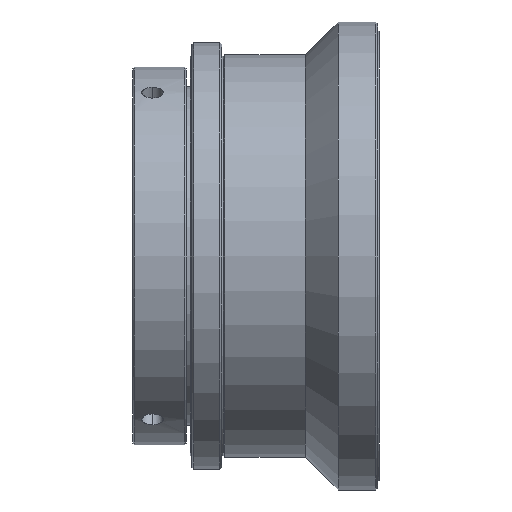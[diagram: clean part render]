
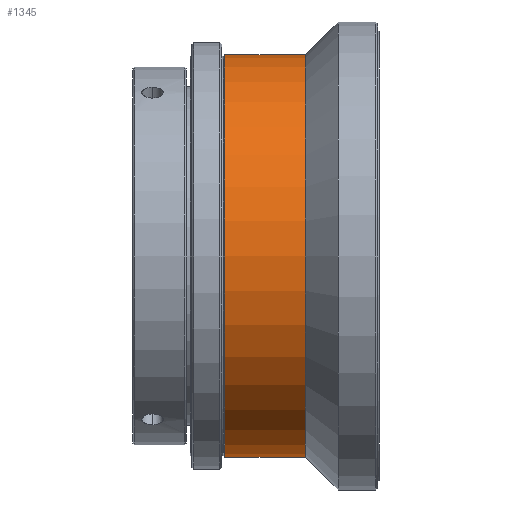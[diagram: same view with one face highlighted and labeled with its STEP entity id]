
A CAD part, front view. The second image highlights one B-rep face of the part: STEP entity #1345.
In plain terms, the highlighted cylindrical face has radius 24.5 mm (diameter 49 mm), a partial arc.
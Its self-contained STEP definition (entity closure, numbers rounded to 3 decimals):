
#50 = AXIS2_PLACEMENT_3D ( 'NONE', #723, #535, #842 ) ;
#190 = LINE ( 'NONE', #1640, #2032 ) ;
#198 = CARTESIAN_POINT ( 'NONE',  ( -9., 0., -24.5 ) ) ;
#250 = VECTOR ( 'NONE', #656, 1000. ) ;
#253 = EDGE_CURVE ( 'NONE', #962, #1346, #667, .T. ) ;
#429 = AXIS2_PLACEMENT_3D ( 'NONE', #1668, #1157, #1181 ) ;
#521 = CARTESIAN_POINT ( 'NONE',  ( 2.5, 0., 24.5 ) ) ;
#526 = FACE_OUTER_BOUND ( 'NONE', #1232, .T. ) ;
#535 = DIRECTION ( 'NONE',  ( 1., 0., 0. ) ) ;
#543 = ORIENTED_EDGE ( 'NONE', *, *, #1441, .T. ) ;
#548 = CYLINDRICAL_SURFACE ( 'NONE', #429, 24.5 ) ;
#593 = AXIS2_PLACEMENT_3D ( 'NONE', #887, #1529, #1541 ) ;
#606 = EDGE_CURVE ( 'NONE', #1106, #1538, #870, .T. ) ;
#656 = DIRECTION ( 'NONE',  ( 1., 0., 0. ) ) ;
#667 = CIRCLE ( 'NONE', #50, 24.5 ) ;
#723 = CARTESIAN_POINT ( 'NONE',  ( -9., 0., 0. ) ) ;
#842 = DIRECTION ( 'NONE',  ( 0., 0., -1. ) ) ;
#870 = CIRCLE ( 'NONE', #593, 24.5 ) ;
#887 = CARTESIAN_POINT ( 'NONE',  ( -18.8, 0., 0. ) ) ;
#962 = VERTEX_POINT ( 'NONE', #1895 ) ;
#1106 = VERTEX_POINT ( 'NONE', #1712 ) ;
#1157 = DIRECTION ( 'NONE',  ( 1., 0., 0. ) ) ;
#1181 = DIRECTION ( 'NONE',  ( 0., 0., -1. ) ) ;
#1232 = EDGE_LOOP ( 'NONE', ( #1474, #2064, #543, #1934 ) ) ;
#1345 = ADVANCED_FACE ( 'NONE', ( #526 ), #548, .T. ) ;
#1346 = VERTEX_POINT ( 'NONE', #198 ) ;
#1431 = EDGE_CURVE ( 'NONE', #1106, #962, #1651, .T. ) ;
#1441 = EDGE_CURVE ( 'NONE', #1538, #1346, #190, .T. ) ;
#1474 = ORIENTED_EDGE ( 'NONE', *, *, #1431, .F. ) ;
#1529 = DIRECTION ( 'NONE',  ( 1., 0., 0. ) ) ;
#1538 = VERTEX_POINT ( 'NONE', #1749 ) ;
#1541 = DIRECTION ( 'NONE',  ( 0., 0., -1. ) ) ;
#1640 = CARTESIAN_POINT ( 'NONE',  ( 2.5, 0., -24.5 ) ) ;
#1651 = LINE ( 'NONE', #521, #250 ) ;
#1668 = CARTESIAN_POINT ( 'NONE',  ( 2.5, 0., 0. ) ) ;
#1712 = CARTESIAN_POINT ( 'NONE',  ( -18.8, 0., 24.5 ) ) ;
#1749 = CARTESIAN_POINT ( 'NONE',  ( -18.8, 0., -24.5 ) ) ;
#1895 = CARTESIAN_POINT ( 'NONE',  ( -9., 0., 24.5 ) ) ;
#1934 = ORIENTED_EDGE ( 'NONE', *, *, #253, .F. ) ;
#1960 = DIRECTION ( 'NONE',  ( 1., 0., 0. ) ) ;
#2032 = VECTOR ( 'NONE', #1960, 1000. ) ;
#2064 = ORIENTED_EDGE ( 'NONE', *, *, #606, .T. ) ;
